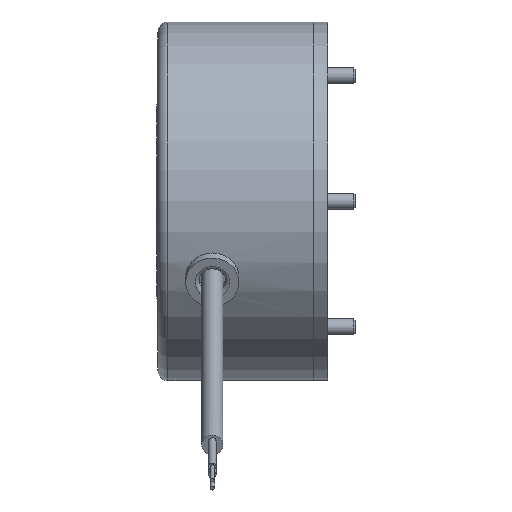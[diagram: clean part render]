
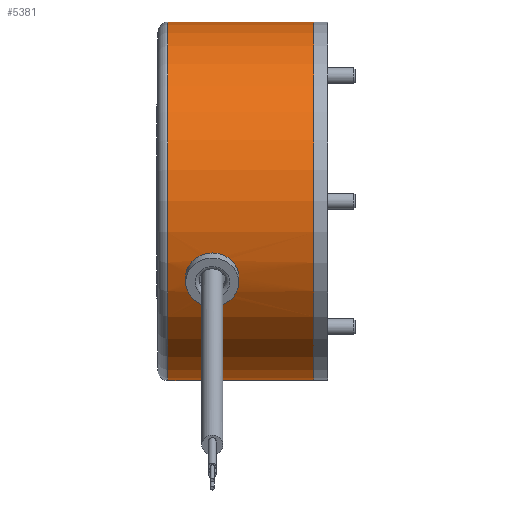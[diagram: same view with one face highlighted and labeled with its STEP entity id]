
A CAD part, front view. The second image highlights one B-rep face of the part: STEP entity #5381.
In plain terms, the highlighted cylindrical face has radius 44.5 mm (diameter 89 mm), a full revolution.
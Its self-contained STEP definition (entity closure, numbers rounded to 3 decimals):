
#162=B_SPLINE_CURVE_WITH_KNOTS('',3,(#9382,#9383,#9384,#9385,#9386,#9387,
#9388,#9389,#9390,#9391,#9392,#9393,#9394,#9395,#9396,#9397,#9398,#9399),
 .UNSPECIFIED.,.F.,.F.,(4,2,2,2,2,2,2,2,4),(0.767,0.959,
1.15,1.342,1.533,1.725,1.917,
2.108,2.3),.UNSPECIFIED.);
#163=B_SPLINE_CURVE_WITH_KNOTS('',3,(#9402,#9403,#9404,#9405,#9406,#9407,
#9408,#9409,#9410,#9411,#9412,#9413,#9414,#9415,#9416,#9417,#9418,#9419,
#9420),.UNSPECIFIED.,.F.,.F.,(4,2,2,2,3,2,2,2,4),(2.3,2.492,
2.684,2.875,3.067,3.258,3.449,
3.642,3.834),.UNSPECIFIED.);
#316=CYLINDRICAL_SURFACE('',#5910,44.5);
#401=FACE_BOUND('',#1285,.T.);
#650=CIRCLE('',#5911,44.5);
#651=CIRCLE('',#5912,44.5);
#652=CIRCLE('',#5913,44.5);
#653=CIRCLE('',#5914,44.5);
#654=CIRCLE('',#5915,44.5);
#972=FACE_OUTER_BOUND('',#1284,.T.);
#1284=EDGE_LOOP('',(#4281,#4282,#4283,#4284,#4285,#4286,#4287));
#1285=EDGE_LOOP('',(#4288,#4289,#4290,#4291,#4292,#4293));
#1592=LINE('',#9509,#1846);
#1593=LINE('',#9515,#1847);
#1594=LINE('',#9516,#1848);
#1846=VECTOR('',#7121,44.5);
#1847=VECTOR('',#7128,10.);
#1848=VECTOR('',#7129,10.);
#2284=VERTEX_POINT('',#9273);
#2285=VERTEX_POINT('',#9274);
#2286=VERTEX_POINT('',#9276);
#2287=VERTEX_POINT('',#9278);
#2306=VERTEX_POINT('',#9504);
#2307=VERTEX_POINT('',#9505);
#2308=VERTEX_POINT('',#9508);
#2309=VERTEX_POINT('',#9510);
#2310=VERTEX_POINT('',#9512);
#2988=EDGE_CURVE('',#2285,#2286,#162,.T.);
#2990=EDGE_CURVE('',#2286,#2285,#163,.T.);
#3005=EDGE_CURVE('',#2306,#2307,#650,.T.);
#3006=EDGE_CURVE('',#2307,#2306,#651,.T.);
#3007=EDGE_CURVE('',#2307,#2308,#1592,.T.);
#3008=EDGE_CURVE('',#2309,#2308,#652,.T.);
#3009=EDGE_CURVE('',#2310,#2309,#653,.T.);
#3010=EDGE_CURVE('',#2308,#2310,#654,.T.);
#3011=EDGE_CURVE('',#2286,#2287,#1593,.T.);
#3012=EDGE_CURVE('',#2284,#2285,#1594,.T.);
#4281=ORIENTED_EDGE('',*,*,#3005,.F.);
#4282=ORIENTED_EDGE('',*,*,#3006,.F.);
#4283=ORIENTED_EDGE('',*,*,#3007,.T.);
#4284=ORIENTED_EDGE('',*,*,#3008,.F.);
#4285=ORIENTED_EDGE('',*,*,#3009,.F.);
#4286=ORIENTED_EDGE('',*,*,#3010,.F.);
#4287=ORIENTED_EDGE('',*,*,#3007,.F.);
#4288=ORIENTED_EDGE('',*,*,#3011,.T.);
#4289=ORIENTED_EDGE('',*,*,#3011,.F.);
#4290=ORIENTED_EDGE('',*,*,#2990,.T.);
#4291=ORIENTED_EDGE('',*,*,#3012,.F.);
#4292=ORIENTED_EDGE('',*,*,#3012,.T.);
#4293=ORIENTED_EDGE('',*,*,#2988,.T.);
#5381=ADVANCED_FACE('',(#972,#401),#316,.T.);
#5910=AXIS2_PLACEMENT_3D('',#9503,#7115,#7116);
#5911=AXIS2_PLACEMENT_3D('',#9506,#7117,#7118);
#5912=AXIS2_PLACEMENT_3D('',#9507,#7119,#7120);
#5913=AXIS2_PLACEMENT_3D('',#9511,#7122,#7123);
#5914=AXIS2_PLACEMENT_3D('',#9513,#7124,#7125);
#5915=AXIS2_PLACEMENT_3D('',#9514,#7126,#7127);
#7115=DIRECTION('center_axis',(1.,0.,0.));
#7116=DIRECTION('ref_axis',(0.,1.,0.));
#7117=DIRECTION('center_axis',(1.,0.,0.));
#7118=DIRECTION('ref_axis',(0.,1.,0.));
#7119=DIRECTION('center_axis',(1.,0.,0.));
#7120=DIRECTION('ref_axis',(0.,1.,0.));
#7121=DIRECTION('',(-1.,0.,0.));
#7122=DIRECTION('center_axis',(-1.,0.,0.));
#7123=DIRECTION('ref_axis',(0.,-1.,0.));
#7124=DIRECTION('center_axis',(-1.,0.,0.));
#7125=DIRECTION('ref_axis',(0.,-1.,0.));
#7126=DIRECTION('center_axis',(-1.,0.,0.));
#7127=DIRECTION('ref_axis',(0.,-1.,0.));
#7128=DIRECTION('',(1.,0.,0.));
#7129=DIRECTION('',(1.,0.,0.));
#9273=CARTESIAN_POINT('',(-31.8,-40.331,-18.807));
#9274=CARTESIAN_POINT('',(-30.3,-40.331,-18.807));
#9276=CARTESIAN_POINT('',(-20.1,-40.331,-18.807));
#9278=CARTESIAN_POINT('',(-18.6,-40.331,-18.807));
#9382=CARTESIAN_POINT('Ctrl Pts',(-30.3,-40.331,-18.807));
#9383=CARTESIAN_POINT('Ctrl Pts',(-30.3,-40.601,-18.227));
#9384=CARTESIAN_POINT('Ctrl Pts',(-30.171,-40.875,-17.603));
#9385=CARTESIAN_POINT('Ctrl Pts',(-29.647,-41.354,-16.446));
#9386=CARTESIAN_POINT('Ctrl Pts',(-29.253,-41.56,-15.914));
#9387=CARTESIAN_POINT('Ctrl Pts',(-28.346,-41.873,-15.069));
#9388=CARTESIAN_POINT('Ctrl Pts',(-27.773,-42.002,-14.701));
#9389=CARTESIAN_POINT('Ctrl Pts',(-26.52,-42.17,-14.212));
#9390=CARTESIAN_POINT('Ctrl Pts',(-25.838,-42.21,-14.091));
#9391=CARTESIAN_POINT('Ctrl Pts',(-24.562,-42.21,-14.091));
#9392=CARTESIAN_POINT('Ctrl Pts',(-23.88,-42.17,-14.212));
#9393=CARTESIAN_POINT('Ctrl Pts',(-22.627,-42.002,-14.701));
#9394=CARTESIAN_POINT('Ctrl Pts',(-22.054,-41.873,-15.069));
#9395=CARTESIAN_POINT('Ctrl Pts',(-21.147,-41.56,-15.914));
#9396=CARTESIAN_POINT('Ctrl Pts',(-20.753,-41.354,-16.446));
#9397=CARTESIAN_POINT('Ctrl Pts',(-20.229,-40.875,-17.603));
#9398=CARTESIAN_POINT('Ctrl Pts',(-20.1,-40.601,-18.227));
#9399=CARTESIAN_POINT('Ctrl Pts',(-20.1,-40.331,-18.807));
#9402=CARTESIAN_POINT('Ctrl Pts',(-20.1,-40.331,-18.807));
#9403=CARTESIAN_POINT('Ctrl Pts',(-20.1,-40.06,-19.386));
#9404=CARTESIAN_POINT('Ctrl Pts',(-20.229,-39.759,-19.997));
#9405=CARTESIAN_POINT('Ctrl Pts',(-20.753,-39.181,-21.108));
#9406=CARTESIAN_POINT('Ctrl Pts',(-21.147,-38.905,-21.608));
#9407=CARTESIAN_POINT('Ctrl Pts',(-22.054,-38.459,-22.39));
#9408=CARTESIAN_POINT('Ctrl Pts',(-22.627,-38.26,-22.726));
#9409=CARTESIAN_POINT('Ctrl Pts',(-23.88,-37.994,-23.169));
#9410=CARTESIAN_POINT('Ctrl Pts',(-24.562,-37.927,-23.277));
#9411=CARTESIAN_POINT('Ctrl Pts',(-25.2,-37.927,-23.277));
#9412=CARTESIAN_POINT('Ctrl Pts',(-25.837,-37.927,-23.277));
#9413=CARTESIAN_POINT('Ctrl Pts',(-26.517,-37.993,-23.169));
#9414=CARTESIAN_POINT('Ctrl Pts',(-27.77,-38.259,-22.727));
#9415=CARTESIAN_POINT('Ctrl Pts',(-28.342,-38.458,-22.393));
#9416=CARTESIAN_POINT('Ctrl Pts',(-29.25,-38.903,-21.611));
#9417=CARTESIAN_POINT('Ctrl Pts',(-29.645,-39.179,-21.111));
#9418=CARTESIAN_POINT('Ctrl Pts',(-30.17,-39.758,-19.999));
#9419=CARTESIAN_POINT('Ctrl Pts',(-30.3,-40.06,-19.387));
#9420=CARTESIAN_POINT('Ctrl Pts',(-30.3,-40.331,-18.807));
#9503=CARTESIAN_POINT('Origin',(-19.35,0.,0.));
#9504=CARTESIAN_POINT('',(0.,44.5,0.));
#9505=CARTESIAN_POINT('',(0.,-44.5,0.));
#9506=CARTESIAN_POINT('Origin',(0.,0.,0.));
#9507=CARTESIAN_POINT('Origin',(0.,0.,0.));
#9508=CARTESIAN_POINT('',(-36.2,-44.5,0.));
#9509=CARTESIAN_POINT('',(-19.35,-44.5,0.));
#9510=CARTESIAN_POINT('',(-36.2,44.5,0.));
#9511=CARTESIAN_POINT('Origin',(-36.2,0.,0.));
#9512=CARTESIAN_POINT('',(-36.2,0.,44.5));
#9513=CARTESIAN_POINT('Origin',(-36.2,0.,0.));
#9514=CARTESIAN_POINT('Origin',(-36.2,0.,0.));
#9515=CARTESIAN_POINT('',(-19.35,-40.331,-18.807));
#9516=CARTESIAN_POINT('',(-19.35,-40.331,-18.807));
